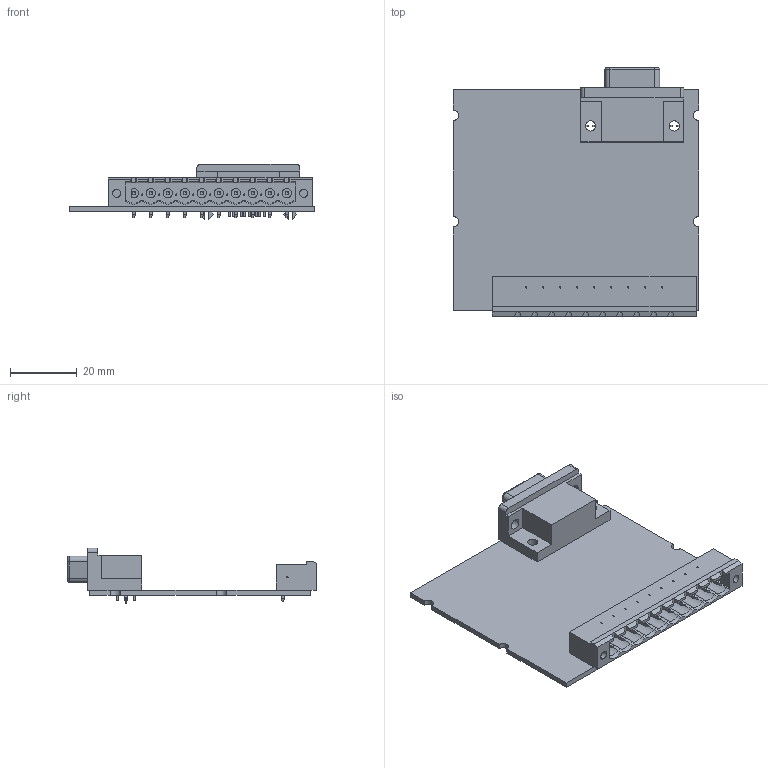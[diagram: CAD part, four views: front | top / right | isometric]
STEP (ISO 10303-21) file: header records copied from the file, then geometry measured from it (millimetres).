
FILE_DESCRIPTION((''),'2;1');
FILE_NAME('CD_NI_9215E','2010-02-02T',('scarrasc'),(''),'PRO/ENGINEER BY PARAMETRIC TECHNOLOGY CORPORATION, 2006080','PRO/ENGINEER BY PARAMETRIC TECHNOLOGY CORPORATION, 2006080','');
FILE_SCHEMA(('CONFIG_CONTROL_DESIGN'));
Length unit declared in the file: inch
Products named in the file (1): CD_NI_9215E
Bounding box: 73.38 x 74.32 x 16.61 mm (x, y, z)
Volume: 15697.1 mm3; surface area: 15202.3 mm2
Topology: 5 solids, 7 shells, 775 faces, 1822 edges, 1174 vertices
Faces by surface type: plane 579, cylinder 142, cone 40, sphere 10, torus 4
Entity records: 22004 total; most frequent: CARTESIAN_POINT 3863, DIRECTION 3700, ORIENTED_EDGE 3644, EDGE_CURVE 1822, VECTOR 1454, LINE 1454, VERTEX_POINT 1174, AXIS2_PLACEMENT_3D 1123
